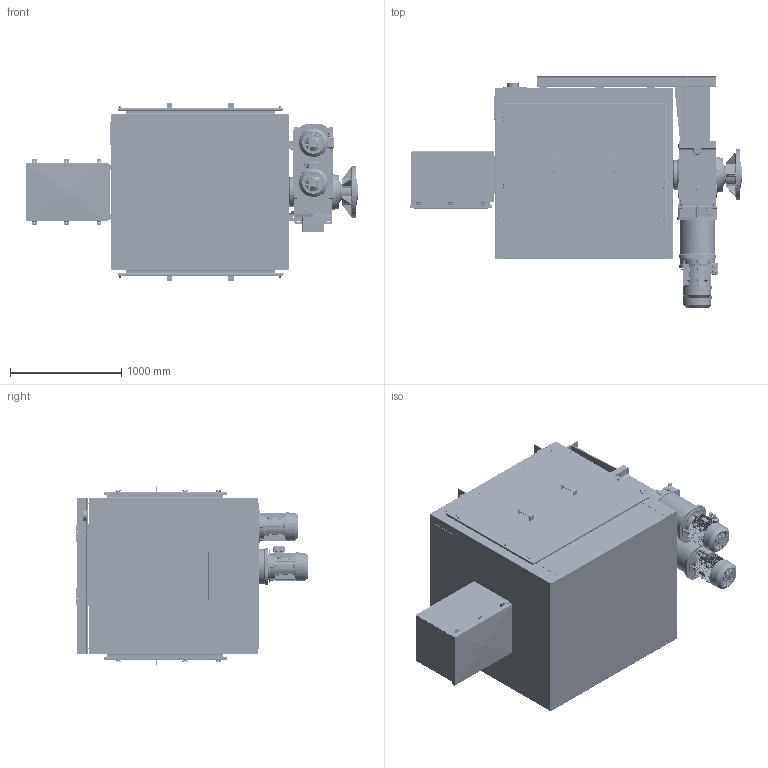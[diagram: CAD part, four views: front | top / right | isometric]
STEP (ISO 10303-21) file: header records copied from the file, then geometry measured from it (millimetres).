
FILE_DESCRIPTION(/* description */ (''),/* implementation_level */ '2;1');
FILE_NAME(/* name */ 'K:\NEMANJA\CABLE REEL\CABLE REEL DA\0700-6\07006002 DAPR-MCGBSR\STEP\75953.stp',/* time_stamp */ '2017-03-16T14:28:15+01:00',/* author */ ('vlakrc01'),/* organization */ ('Hillmar Industries Ltd.'),/* preprocessor_version */ 'ST-DEVELOPER v16.1',/* originating_system */ 'Autodesk Inventor 2016',/* authorisation */ '');
FILE_SCHEMA (('AUTOMOTIVE_DESIGN { 1 0 10303 214 3 1 1 }'));
Products named in the file (1): 75953
Bounding box: 2980.69 x 2087.71 x 1606.6 mm (x, y, z)
Volume: 163080425.2 mm3; surface area: 52180014.8 mm2
Topology: 21 solids, 21 shells, 10817 faces, 29583 edges, 19059 vertices
Faces by surface type: plane 6638, cylinder 2247, bspline 965, cone 576, torus 345, sphere 46
Full cylindrical faces by diameter (mm): 3 x6, 5 x8, 7 x1, 8 x4, 8.376 x27, 8.731 x1, 9 x4, 10 x45, 10.106 x101, 10.5 x4, 11 x20, 12 x29, 12.5 x6, 13 x70, 13.5 x12, 14 x16, 14.3 x4, 14.5 x8, 15 x16, 17 x4, 18 x1, 18.256 x3, 18.38 x1, 20 x22, 20.5 x4, 22 x24, 22.225 x1, 22.3 x1, 23.376 x1, 23.812 x2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
Entity records: 374192 total; most frequent: CARTESIAN_POINT 99585, ORIENTED_EDGE 56294, DIRECTION 50402, EDGE_CURVE 28133, VERTEX_POINT 18553, LINE 17758, VECTOR 17758, AXIS2_PLACEMENT_3D 16322
